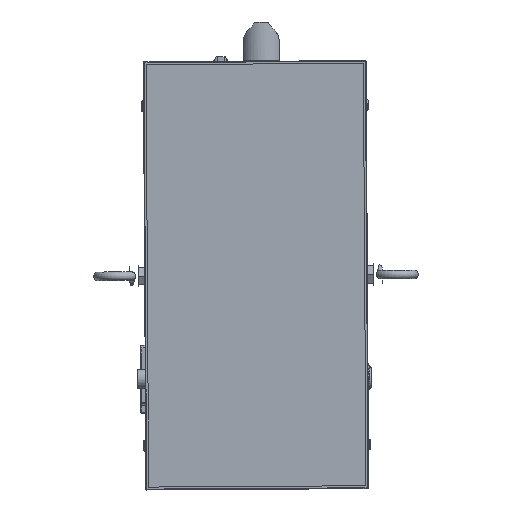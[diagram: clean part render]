
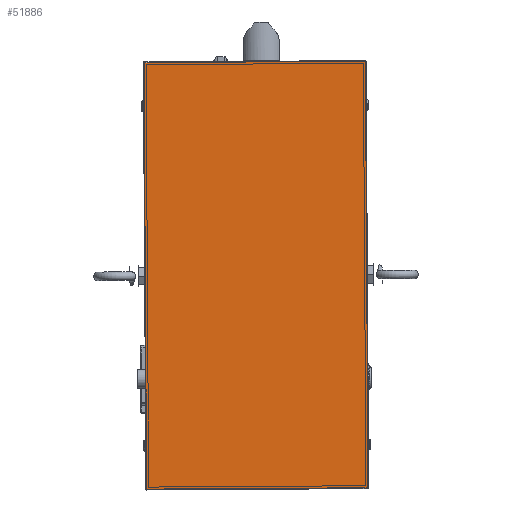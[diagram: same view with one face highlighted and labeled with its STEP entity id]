
A CAD part, top view. The second image highlights one B-rep face of the part: STEP entity #51886.
In plain terms, the highlighted planar face has unit normal (0, 0, 1).
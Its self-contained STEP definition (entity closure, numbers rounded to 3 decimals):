
#2519=PLANE('',#56099);
#7297=FACE_OUTER_BOUND('',#10325,.T.);
#10325=EDGE_LOOP('',(#41729,#41730,#41731,#41732));
#16438=LINE('',#83659,#20266);
#16439=LINE('',#83661,#20267);
#16440=LINE('',#83663,#20268);
#16441=LINE('',#83664,#20269);
#20266=VECTOR('',#65874,10.);
#20267=VECTOR('',#65875,10.);
#20268=VECTOR('',#65876,10.);
#20269=VECTOR('',#65877,10.);
#24909=VERTEX_POINT('',#83657);
#24910=VERTEX_POINT('',#83658);
#24911=VERTEX_POINT('',#83660);
#24912=VERTEX_POINT('',#83662);
#30980=EDGE_CURVE('',#24909,#24910,#16438,.T.);
#30981=EDGE_CURVE('',#24911,#24909,#16439,.T.);
#30982=EDGE_CURVE('',#24912,#24911,#16440,.T.);
#30983=EDGE_CURVE('',#24910,#24912,#16441,.T.);
#41729=ORIENTED_EDGE('',*,*,#30980,.F.);
#41730=ORIENTED_EDGE('',*,*,#30981,.F.);
#41731=ORIENTED_EDGE('',*,*,#30982,.F.);
#41732=ORIENTED_EDGE('',*,*,#30983,.F.);
#51886=ADVANCED_FACE('',(#7297),#2519,.T.);
#56099=AXIS2_PLACEMENT_3D('',#83656,#65872,#65873);
#65872=DIRECTION('center_axis',(0.,0.,
1.));
#65873=DIRECTION('ref_axis',(-0.006,1.,0.));
#65874=DIRECTION('',(0.006,-1.,0.));
#65875=DIRECTION('',(1.,0.006,0.));
#65876=DIRECTION('',(-0.006,1.,0.));
#65877=DIRECTION('',(-1.,-0.006,0.));
#83656=CARTESIAN_POINT('Origin',(-81.415,230.505,610.));
#83657=CARTESIAN_POINT('',(80.072,232.996,610.));
#83658=CARTESIAN_POINT('',(81.998,-80.999,610.));
#83659=CARTESIAN_POINT('',(80.082,231.496,610.));
#83660=CARTESIAN_POINT('',(-82.925,231.996,610.));
#83661=CARTESIAN_POINT('',(-41.425,232.25,610.));
#83662=CARTESIAN_POINT('',(-80.999,-81.998,610.));
#83663=CARTESIAN_POINT('',(-82.915,230.496,610.));
#83664=CARTESIAN_POINT('',(-39.499,-81.744,610.));
